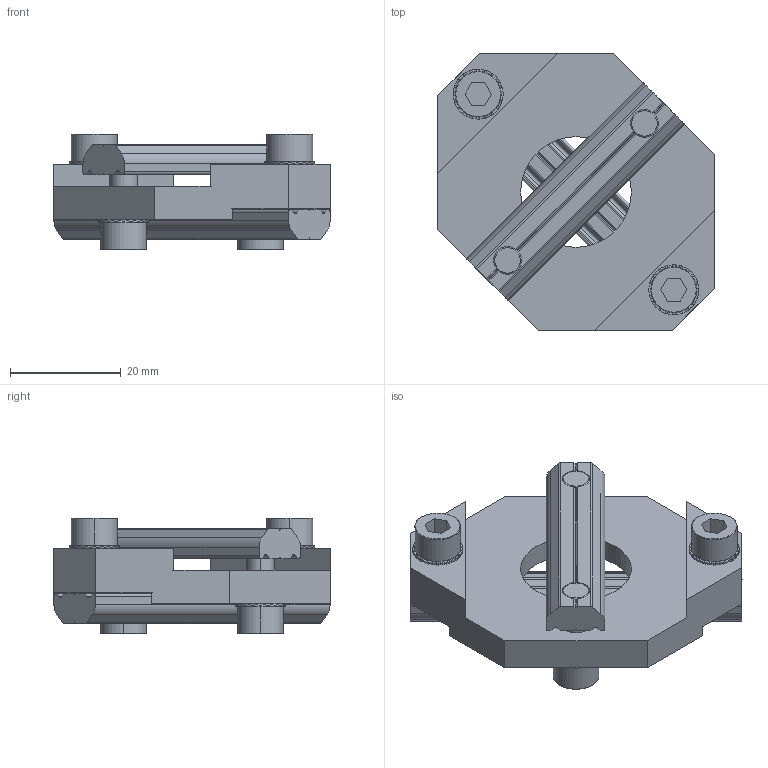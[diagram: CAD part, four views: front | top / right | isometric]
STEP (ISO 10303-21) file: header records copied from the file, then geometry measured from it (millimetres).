
FILE_DESCRIPTION (( 'STEP AP214' ), '1' );
FILE_NAME ('SMBA-2540T.STEP', '2022-12-08T03:47:02', ( '' ), ( '' ), 'SwSTEP 2.0', 'SolidWorks 2018', '' );
FILE_SCHEMA (( 'AUTOMOTIVE_DESIGN' ));
Length unit declared in the file: millimetre
Products named in the file (1): SMBA-2540T
Bounding box: 50 x 50 x 20.9 mm (x, y, z)
Volume: 16472.7 mm3; surface area: 11800.2 mm2
Topology: 11 solids, 11 shells, 866 faces, 2524 edges, 1672 vertices
Faces by surface type: plane 756, cylinder 86, cone 24
Entity records: 38718 total; most frequent: CARTESIAN_POINT 5433, ORIENTED_EDGE 5048, DIRECTION 5022, EDGE_CURVE 2524, AXIS2_PLACEMENT_3D 1689, VERTEX_POINT 1672, VECTOR 1644, LINE 1644
